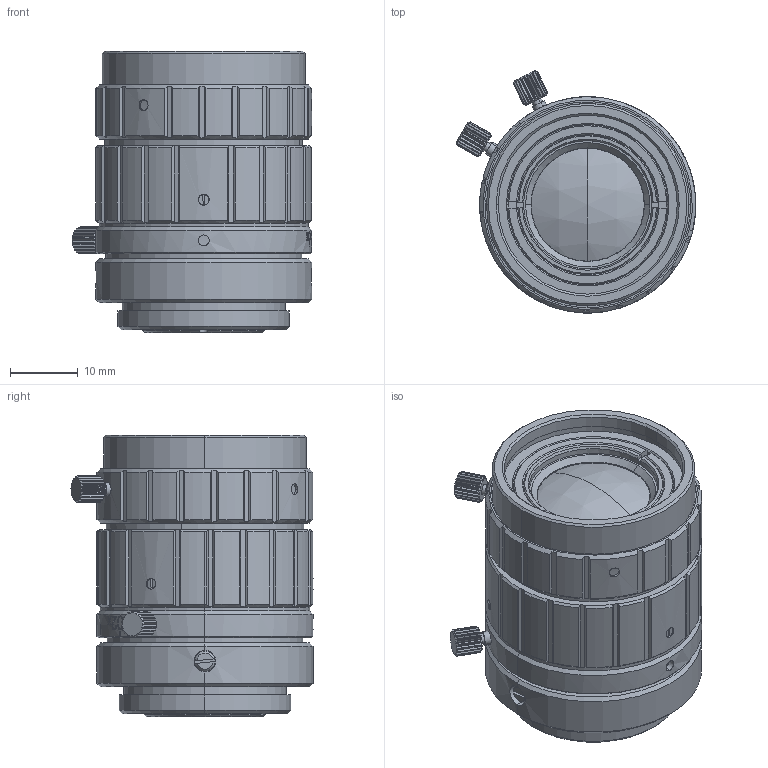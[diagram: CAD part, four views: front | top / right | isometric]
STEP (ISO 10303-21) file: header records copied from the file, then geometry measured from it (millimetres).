
FILE_DESCRIPTION (( 'STEP AP214' ), '1' );
FILE_NAME ('ML-MC12HR.STEP', '2026-02-10T06:30:48', ( '' ), ( '' ), 'SwSTEP 2.0', 'SolidWorks 2025', '' );
FILE_SCHEMA (( 'AUTOMOTIVE_DESIGN' ));
Length unit declared in the file: millimetre
Products named in the file (1): ML-MC12HR
Bounding box: 35.47 x 35.83 x 41.69 mm (x, y, z)
Volume: 29016.9 mm3; surface area: 7348.8 mm2
Topology: 3 solids, 5 shells, 992 faces, 2672 edges, 1763 vertices
Faces by surface type: cylinder 369, plane 323, bspline 208, cone 88, sphere 4
Entity records: 55884 total; most frequent: CARTESIAN_POINT 33806, ORIENTED_EDGE 5344, DIRECTION 3384, EDGE_CURVE 2672, VERTEX_POINT 1763, B_SPLINE_CURVE_WITH_KNOTS 1367, AXIS2_PLACEMENT_3D 1300, EDGE_LOOP 1073
